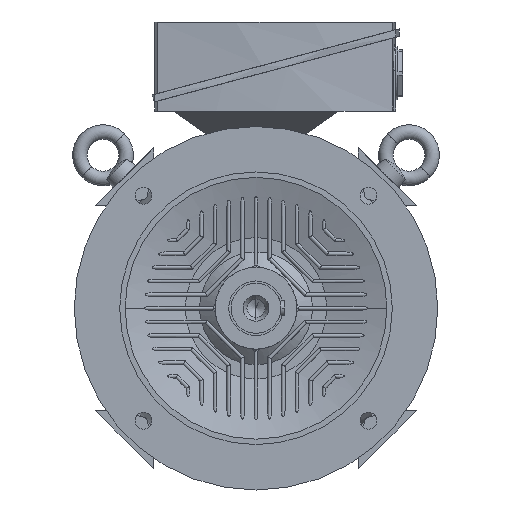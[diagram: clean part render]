
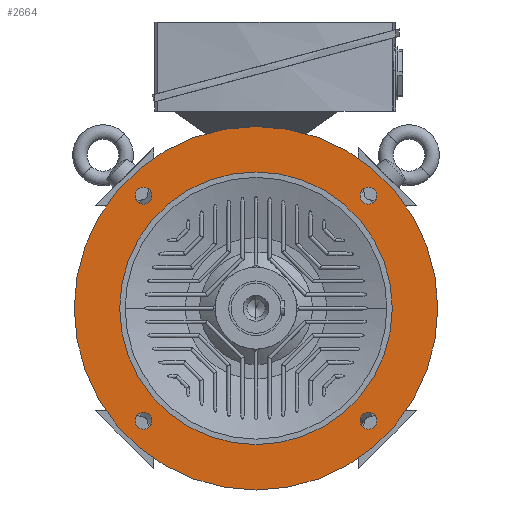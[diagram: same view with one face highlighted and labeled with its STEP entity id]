
A CAD part, left-side view. The second image highlights one B-rep face of the part: STEP entity #2664.
In plain terms, the highlighted planar face has unit normal (-1, 0, 0).
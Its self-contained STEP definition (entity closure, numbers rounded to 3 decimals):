
#2664=ADVANCED_FACE('',(#6077,#6078,#6079,#6080,#6081,#6082),#6083,.T.);
#6077=FACE_BOUND('',#10233,.T.);
#6078=FACE_BOUND('',#10234,.T.);
#6079=FACE_BOUND('',#10235,.T.);
#6080=FACE_BOUND('',#10236,.T.);
#6081=FACE_OUTER_BOUND('',#10237,.T.);
#6082=FACE_BOUND('',#10238,.T.);
#6083=PLANE('',#10239);
#10233=EDGE_LOOP('',(#18417,#18418));
#10234=EDGE_LOOP('',(#18419,#18420));
#10235=EDGE_LOOP('',(#18421,#18422));
#10236=EDGE_LOOP('',(#18423,#18424));
#10237=EDGE_LOOP('',(#18425,#18426));
#10238=EDGE_LOOP('',(#18427,#18428));
#10239=AXIS2_PLACEMENT_3D('',#18429,#18430,#18431);
#18417=ORIENTED_EDGE('',*,*,#27964,.T.);
#18418=ORIENTED_EDGE('',*,*,#25702,.T.);
#18419=ORIENTED_EDGE('',*,*,#27965,.T.);
#18420=ORIENTED_EDGE('',*,*,#25707,.T.);
#18421=ORIENTED_EDGE('',*,*,#27966,.T.);
#18422=ORIENTED_EDGE('',*,*,#25712,.T.);
#18423=ORIENTED_EDGE('',*,*,#27967,.T.);
#18424=ORIENTED_EDGE('',*,*,#25717,.T.);
#18425=ORIENTED_EDGE('',*,*,#25722,.F.);
#18426=ORIENTED_EDGE('',*,*,#27968,.F.);
#18427=ORIENTED_EDGE('',*,*,#25843,.T.);
#18428=ORIENTED_EDGE('',*,*,#27857,.T.);
#18429=CARTESIAN_POINT('',(-87.0,175.0,0.0));
#18430=DIRECTION('',(-1.0,0.0,0.0));
#18431=DIRECTION('',(0.0,-1.0,0.0));
#25702=EDGE_CURVE('',#31063,#31060,#31064,.T.);
#25707=EDGE_CURVE('',#31072,#31069,#31073,.T.);
#25712=EDGE_CURVE('',#31081,#31078,#31082,.T.);
#25717=EDGE_CURVE('',#31090,#31087,#31091,.T.);
#25722=EDGE_CURVE('',#31096,#31099,#31100,.T.);
#25843=EDGE_CURVE('',#31314,#31318,#31320,.T.);
#27857=EDGE_CURVE('',#31318,#31314,#34265,.T.);
#27964=EDGE_CURVE('',#31060,#31063,#34422,.T.);
#27965=EDGE_CURVE('',#31069,#31072,#34423,.T.);
#27966=EDGE_CURVE('',#31078,#31081,#34424,.T.);
#27967=EDGE_CURVE('',#31087,#31090,#34425,.T.);
#27968=EDGE_CURVE('',#31099,#31096,#34426,.T.);
#31060=VERTEX_POINT('',#39649);
#31063=VERTEX_POINT('',#39653);
#31064=CIRCLE('',#39654,9.25);
#31069=VERTEX_POINT('',#39660);
#31072=VERTEX_POINT('',#39664);
#31073=CIRCLE('',#39665,9.25);
#31078=VERTEX_POINT('',#39671);
#31081=VERTEX_POINT('',#39675);
#31082=CIRCLE('',#39676,9.25);
#31087=VERTEX_POINT('',#39682);
#31090=VERTEX_POINT('',#39686);
#31091=CIRCLE('',#39687,9.25);
#31096=VERTEX_POINT('',#39693);
#31099=VERTEX_POINT('',#39697);
#31100=CIRCLE('',#39698,200.0);
#31314=VERTEX_POINT('',#40172);
#31318=VERTEX_POINT('',#40177);
#31320=CIRCLE('',#40180,150.0);
#34265=CIRCLE('',#47929,150.0);
#34422=CIRCLE('',#48264,9.25);
#34423=CIRCLE('',#48265,9.25);
#34424=CIRCLE('',#48266,9.25);
#34425=CIRCLE('',#48267,9.25);
#34426=CIRCLE('',#48268,200.0);
#39649=CARTESIAN_POINT('',(-87.0,-130.284,-130.284));
#39653=CARTESIAN_POINT('',(-87.0,-117.203,-117.203));
#39654=AXIS2_PLACEMENT_3D('',#61553,#61554,#61555);
#39660=CARTESIAN_POINT('',(-87.0,130.284,-130.284));
#39664=CARTESIAN_POINT('',(-87.0,117.203,-117.203));
#39665=AXIS2_PLACEMENT_3D('',#61561,#61562,#61563);
#39671=CARTESIAN_POINT('',(-87.0,130.284,130.284));
#39675=CARTESIAN_POINT('',(-87.0,117.203,117.203));
#39676=AXIS2_PLACEMENT_3D('',#61569,#61570,#61571);
#39682=CARTESIAN_POINT('',(-87.0,-130.284,130.284));
#39686=CARTESIAN_POINT('',(-87.0,-117.203,117.203));
#39687=AXIS2_PLACEMENT_3D('',#61577,#61578,#61579);
#39693=CARTESIAN_POINT('',(-87.0,200.0,0.0));
#39697=CARTESIAN_POINT('',(-87.0,-200.0,0.));
#39698=AXIS2_PLACEMENT_3D('',#61585,#61586,#61587);
#40172=CARTESIAN_POINT('',(-87.0,150.0,0.0));
#40177=CARTESIAN_POINT('',(-87.0,-150.0,0.));
#40180=AXIS2_PLACEMENT_3D('',#61780,#61781,#61782);
#47929=AXIS2_PLACEMENT_3D('',#63566,#63567,#63568);
#48264=AXIS2_PLACEMENT_3D('',#63689,#63690,#63691);
#48265=AXIS2_PLACEMENT_3D('',#63692,#63693,#63694);
#48266=AXIS2_PLACEMENT_3D('',#63695,#63696,#63697);
#48267=AXIS2_PLACEMENT_3D('',#63698,#63699,#63700);
#48268=AXIS2_PLACEMENT_3D('',#63701,#63702,#63703);
#61553=CARTESIAN_POINT('',(-87.0,-123.744,-123.744));
#61554=DIRECTION('',(1.0,0.0,0.0));
#61555=DIRECTION('',(0.0,-0.707,-0.707));
#61561=CARTESIAN_POINT('',(-87.0,123.744,-123.744));
#61562=DIRECTION('',(1.0,-0.0,0.0));
#61563=DIRECTION('',(0.0,0.707,-0.707));
#61569=CARTESIAN_POINT('',(-87.0,123.744,123.744));
#61570=DIRECTION('',(1.0,0.0,-0.0));
#61571=DIRECTION('',(0.0,0.707,0.707));
#61577=CARTESIAN_POINT('',(-87.0,-123.744,123.744));
#61578=DIRECTION('',(1.0,0.0,-0.0));
#61579=DIRECTION('',(0.0,-0.707,0.707));
#61585=CARTESIAN_POINT('',(-87.0,0.0,0.0));
#61586=DIRECTION('',(1.0,0.0,0.0));
#61587=DIRECTION('',(0.0,1.0,0.0));
#61780=CARTESIAN_POINT('',(-87.0,0.0,0.0));
#61781=DIRECTION('',(1.0,0.0,0.0));
#61782=DIRECTION('',(0.0,1.0,0.0));
#63566=CARTESIAN_POINT('',(-87.0,0.0,0.0));
#63567=DIRECTION('',(1.0,0.0,0.0));
#63568=DIRECTION('',(0.0,1.0,0.0));
#63689=CARTESIAN_POINT('',(-87.0,-123.744,-123.744));
#63690=DIRECTION('',(1.0,0.0,0.0));
#63691=DIRECTION('',(0.0,-0.707,-0.707));
#63692=CARTESIAN_POINT('',(-87.0,123.744,-123.744));
#63693=DIRECTION('',(1.0,-0.0,0.0));
#63694=DIRECTION('',(0.0,0.707,-0.707));
#63695=CARTESIAN_POINT('',(-87.0,123.744,123.744));
#63696=DIRECTION('',(1.0,0.0,-0.0));
#63697=DIRECTION('',(0.0,0.707,0.707));
#63698=CARTESIAN_POINT('',(-87.0,-123.744,123.744));
#63699=DIRECTION('',(1.0,0.0,-0.0));
#63700=DIRECTION('',(0.0,-0.707,0.707));
#63701=CARTESIAN_POINT('',(-87.0,0.0,0.0));
#63702=DIRECTION('',(1.0,0.0,0.0));
#63703=DIRECTION('',(0.0,1.0,0.0));
